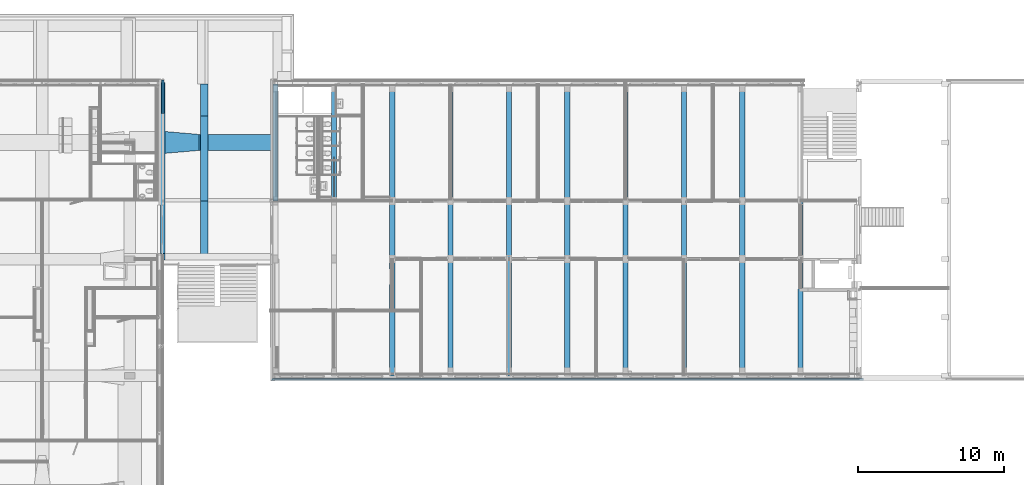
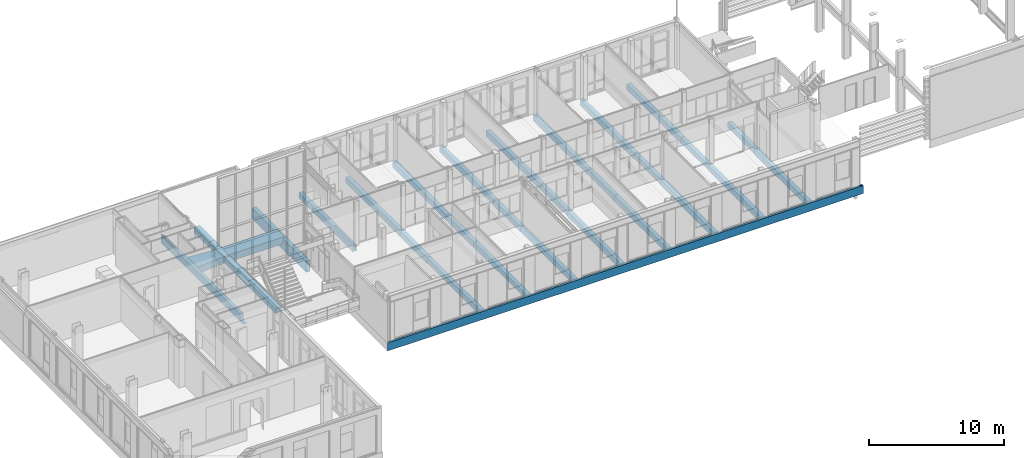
# One storey, part 19 of 94: 32 beams.
"""IFC2X3 building model written with IfcOpenShell, lengths in millimetres."""

import ifcopenshell
import ifcopenshell.guid

model = None  # the IFC model being written
_history = None  # IfcOwnerHistory: only IFC2X3 demands one
_inside = {}  # id of a spatial element -> (the spatial element, [elements in it])
_under = {}  # id of a project, library or spatial element -> (it, [spatial elements below it])
_declared = {}  # id of a project -> (the project, [libraries it declares])
_typed = {}  # id of a type object -> (the type object, [elements of that type])
_made_of = {}  # id of a material, layer set ... -> (it, [elements and type objects made of it])


def new_model(schema):
    """Start an empty IFC model of exactly this schema.

    Asked for "IFC4X3", IfcOpenShell would pick the latest addendum, in which some entities
    have other attributes; the version numbers below select the first issue.
    IFC2X3 requires an IfcOwnerHistory on every rooted entity: one is made here for all.
    """
    global model, _history
    if schema == "IFC4X3":
        model = ifcopenshell.file(schema_version=(4, 3, 0, 0))
    else:
        model = ifcopenshell.file(schema=schema)
    _inside.clear()
    _under.clear()
    _declared.clear()
    _typed.clear()
    _made_of.clear()
    _history = None
    if model.schema == "IFC2X3":
        org = make("IfcOrganization", Name="unknown")
        user = make(
            "IfcPersonAndOrganization",
            ThePerson=make("IfcPerson", FamilyName="unknown"),
            TheOrganization=org,
        )
        app = make(
            "IfcApplication",
            ApplicationDeveloper=org,
            Version="unknown",
            ApplicationFullName="unknown",
            ApplicationIdentifier="unknown",
        )
        _history = make(
            "IfcOwnerHistory",
            OwningUser=user,
            OwningApplication=app,
            ChangeAction="ADDED",
            CreationDate=0,
        )
    return model


def make(cls, **values):
    """One entity of the class cls with the attributes given. An attribute that is None is left unset."""
    return model.create_entity(
        cls, **{name: value for name, value in values.items() if value is not None}
    )


def entity(cls, *values):
    """Any entity or typed value of the class cls, its attributes in the order of the schema. None: left unset."""
    e = model.create_entity(cls)
    for i, value in enumerate(values):
        if value is not None:
            e[i] = value
    return e


def rooted(cls, **values):
    """An entity with a GlobalId (a new one), such as an element, a storey or a relation."""
    return make(cls, GlobalId=ifcopenshell.guid.new(), OwnerHistory=_history, **values)


def si_unit(unit_type, name, prefix=None):
    """IfcSIUnit, for example si_unit("LENGTHUNIT", "METRE", prefix="MILLI")."""
    return make("IfcSIUnit", UnitType=unit_type, Prefix=prefix, Name=name)


def converted_unit(unit_type, name, factor, base, dimensions=None, offset=None):
    """IfcConversionBasedUnit, such as the inch: factor (a typed value) times the base unit."""
    return make(
        "IfcConversionBasedUnit"
        if offset is None
        else "IfcConversionBasedUnitWithOffset",
        ConversionOffset=offset,
        Dimensions=None
        if dimensions is None
        else entity("IfcDimensionalExponents", *dimensions),
        UnitType=unit_type,
        Name=name,
        ConversionFactor=make(
            "IfcMeasureWithUnit", ValueComponent=factor, UnitComponent=base
        ),
    )


def derived_unit(unit_type, elements):
    """IfcDerivedUnit: a product of units, each with its exponent."""
    return make(
        "IfcDerivedUnit",
        Elements=[
            make("IfcDerivedUnitElement", Unit=unit, Exponent=power)
            for unit, power in elements
        ],
        UnitType=unit_type,
    )


def money_unit(currency):
    """IfcMonetaryUnit."""
    return make("IfcMonetaryUnit", Currency=currency)


def assignment(units):
    """IfcUnitAssignment: the units of a project."""
    return None if units is None else make("IfcUnitAssignment", Units=units)


def point(xyz):
    """IfcCartesianPoint."""
    return None if xyz is None else make("IfcCartesianPoint", Coordinates=xyz)


def direction(xyz):
    """IfcDirection."""
    return None if xyz is None else make("IfcDirection", DirectionRatios=xyz)


def frame(location, z_axis=None, x_axis=None):
    """IfcAxis2Placement3D, a coordinate frame: its origin and axes. An axis left out is left unset."""
    return make(
        "IfcAxis2Placement3D",
        Location=point(location),
        Axis=direction(z_axis),
        RefDirection=direction(x_axis),
    )


def origin_with_axes():
    """The frame at (0, 0, 0) with the z axis (0, 0, 1) and the x axis (1, 0, 0) written out."""
    return frame((0.0, 0.0, 0.0), z_axis=(0.0, 0.0, 1.0), x_axis=(1.0, 0.0, 0.0))


def place(relative_to, where):
    """IfcLocalPlacement: puts the frame where relative to a parent placement (None: the world)."""
    return make(
        "IfcLocalPlacement", PlacementRelTo=relative_to, RelativePlacement=where
    )


def context(
    kind, dimensions, precision=None, world=None, true_north=None, identifier=None
):
    """IfcGeometricRepresentationContext, for example the 3D "Model" context."""
    return make(
        "IfcGeometricRepresentationContext",
        ContextIdentifier=identifier,
        ContextType=kind,
        CoordinateSpaceDimension=dimensions,
        Precision=precision,
        WorldCoordinateSystem=world,
        TrueNorth=true_north,
    )


def subcontext(parent, identifier, kind, view, scale=None):
    """IfcGeometricRepresentationSubContext, for example "Body" below "Model"."""
    return make(
        "IfcGeometricRepresentationSubContext",
        ContextIdentifier=identifier,
        ContextType=kind,
        ParentContext=parent,
        TargetScale=scale,
        TargetView=view,
    )


def project(units=None, contexts=None):
    """IfcProject with its units and contexts."""
    return rooted(
        "IfcProject",
        Name="project",
        RepresentationContexts=contexts,
        UnitsInContext=assignment(units),
    )


def spatial(cls, under=None, at=None, **own):
    """A site, building, storey or space (cls), placed at a placement, below another one or the project."""
    s = rooted(cls, ObjectPlacement=at, **own)
    if under is not None:
        _under.setdefault(under.id(), (under, []))[1].append(s)
    return s


def faces_of(points, faces, orient=None, outer=None):
    """IfcFace entities. A face is a list of loops; a loop is a list of indices into points, from 0.

    orient and outer hold one flag for each loop. By default every Orientation is true, the
    first loop of a face is its IfcFaceOuterBound and the others are IfcFaceBound.
    """
    made = []
    for i, loops in enumerate(faces):
        bounds = []
        for j, loop in enumerate(loops):
            is_outer = j == 0 if outer is None else outer[i][j]
            bounds.append(
                make(
                    "IfcFaceOuterBound" if is_outer else "IfcFaceBound",
                    Bound=make("IfcPolyLoop", Polygon=[points[k] for k in loop]),
                    Orientation=True if orient is None else orient[i][j],
                )
            )
        made.append(make("IfcFace", Bounds=bounds))
    return made


def faceted_brep(points, faces, orient=None, outer=None, voids=None):
    """IfcFacetedBrep: a solid bounded by flat faces; with voids (closed shells), ...WithVoids."""
    shared = [point(p) for p in points]
    hull = make("IfcClosedShell", CfsFaces=faces_of(shared, faces, orient, outer))
    if voids is None:
        return make("IfcFacetedBrep", Outer=hull)
    return make(
        "IfcFacetedBrepWithVoids",
        Outer=hull,
        Voids=[
            make(cls, CfsFaces=faces_of(shared, fs, o, b)) for cls, fs, o, b in voids
        ],
    )


def shape(context_of_items, identifier, shape_type, items):
    """IfcShapeRepresentation: the items that make up one representation, for example the "Body"."""
    return make(
        "IfcShapeRepresentation",
        ContextOfItems=context_of_items,
        RepresentationIdentifier=identifier,
        RepresentationType=shape_type,
        Items=items,
    )


def material(Name=None, Category=None):
    """IfcMaterial."""
    return make("IfcMaterial", Name=Name, Category=Category)


def made_of(thing, what):
    """Note that an element or type object is made of a material, layer set ...; save() writes the relation."""
    if what is not None:
        _made_of.setdefault(what.id(), (what, []))[1].append(thing)
    return thing


def type_object(cls, material=None, **own):
    """A type object (cls), such as IfcWallType, which elements share."""
    return made_of(rooted(cls, **own), material)


def element(
    cls,
    number,
    at=None,
    inside=None,
    cuts=None,
    type_object=None,
    material=None,
    context=None,
    identifier="Body",
    shape_type=None,
    held_by="IfcProductDefinitionShape",
    body=None,
    shapes=None,
    **own,
):
    """One element of the class cls, such as IfcWall. Its Tag is "e" and its number.

    at: its placement. inside: the storey or other place that contains it. cuts: it is an
    opening in that element (IfcRelVoidsElement). A single representation is given by context,
    identifier, shape_type and body (its items); several are given by shapes. held_by: the class
    of the entity that holds the representations. save() writes the other relations.
    """
    e = rooted(cls, Tag="e%d" % number, ObjectPlacement=at, **own)
    if body is not None:
        shapes = [shape(context, identifier, shape_type, body)]
    if shapes is not None:
        e.Representation = make(held_by, Representations=shapes)
    if inside is not None:
        _inside.setdefault(inside.id(), (inside, []))[1].append(e)
    if cuts is not None:
        rooted(
            "IfcRelVoidsElement", RelatingBuildingElement=cuts, RelatedOpeningElement=e
        )
    if type_object is not None:
        _typed.setdefault(type_object.id(), (type_object, []))[1].append(e)
    return made_of(e, material)


def aggregate(whole, parts):
    """IfcRelAggregates: a whole, such as a stair, and the parts it consists of."""
    return rooted("IfcRelAggregates", RelatingObject=whole, RelatedObjects=parts)


def save(model, path):
    """Write the relations noted so far, then the file.

    IfcRelAggregates (storeys below a building ...), IfcRelContainedInSpatialStructure (elements
    in a storey), IfcRelDefinesByType, IfcRelAssociatesMaterial and IfcRelDeclares: one each for
    every whole, place, type object, material and project.
    """
    for whole, parts in _under.values():
        aggregate(whole, parts)
    for where, things in _inside.values():
        rooted(
            "IfcRelContainedInSpatialStructure",
            RelatedElements=things,
            RelatingStructure=where,
        )
    for kind, things in _typed.values():
        rooted("IfcRelDefinesByType", RelatedObjects=things, RelatingType=kind)
    for what, things in _made_of.values():
        rooted("IfcRelAssociatesMaterial", RelatedObjects=things, RelatingMaterial=what)
    for by, libraries in _declared.values():
        rooted("IfcRelDeclares", RelatingContext=by, RelatedDefinitions=libraries)
    model.write(path)


model = new_model("IFC2X3")

# Units and contexts
model_context = context("Model", 3, precision=0.01, world=origin_with_axes(), true_north=direction((0.0, 1.0)))
body_context = subcontext(model_context, "Body", "Model", "MODEL_VIEW")
ifc_project = project(units=[si_unit("LENGTHUNIT", "METRE", prefix="MILLI"), si_unit("AREAUNIT", "SQUARE_METRE"), si_unit("VOLUMEUNIT", "CUBIC_METRE"), converted_unit("PLANEANGLEUNIT", "DEGREE", entity("IfcPlaneAngleMeasure", 0.0174532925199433), si_unit("PLANEANGLEUNIT", "RADIAN"), dimensions=[0, 0, 0, 0, 0, 0, 0]), money_unit("EUR"), converted_unit("TIMEUNIT", "Year", entity("IfcTimeMeasure", 31557600.0), si_unit("TIMEUNIT", "SECOND"), dimensions=[0, 0, 1, 0, 0, 0, 0]), si_unit("MASSUNIT", "GRAM", prefix="KILO"), si_unit("THERMODYNAMICTEMPERATUREUNIT", "DEGREE_CELSIUS"), si_unit("LUMINOUSINTENSITYUNIT", "LUMEN"), si_unit("ENERGYUNIT", "JOULE", prefix="MEGA"), derived_unit("THERMALCONDUCTANCEUNIT", [(si_unit("POWERUNIT", "WATT"), 1), (si_unit("LENGTHUNIT", "METRE"), -1), (si_unit("THERMODYNAMICTEMPERATUREUNIT", "KELVIN"), -1)]), derived_unit("SPECIFICHEATCAPACITYUNIT", [(si_unit("ENERGYUNIT", "JOULE"), 1), (si_unit("MASSUNIT", "GRAM", prefix="KILO"), -1), (si_unit("THERMODYNAMICTEMPERATUREUNIT", "KELVIN"), -1)]), derived_unit("MASSDENSITYUNIT", [(si_unit("MASSUNIT", "GRAM", prefix="KILO"), 1), (si_unit("VOLUMEUNIT", "CUBIC_METRE"), -1)])], contexts=[model_context])

# Site, building, storey
site_placement = place(None, origin_with_axes())
site = spatial("IfcSite", under=ifc_project, at=site_placement, Name="<site naam>", CompositionType="ELEMENT")
building_placement = place(site_placement, origin_with_axes())
building = spatial("IfcBuilding", under=site, at=building_placement, Name="<Naam gebouw>", CompositionType="ELEMENT")
storey_placement = place(building_placement, frame((0.0, 0.0, 4250.0), z_axis=(0.0, 0.0, 1.0), x_axis=(1.0, 0.0, 0.0)))
storey = spatial("IfcBuildingStorey", under=building, at=storey_placement, Name="01 1e verdieping", CompositionType="ELEMENT", Elevation=4250.0)

# Beams
ifc_material_1 = material(Name="beton_gewapend C")
beam_type_1 = type_object("IfcBeamType", Name="beton_gewapend C 350 x 650", PredefinedType="BEAM")
beam_1_placement = place(storey_placement, frame((20000.00000000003, 19999.99999999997, -29.99999999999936), z_axis=(0.0, 0.0, 1.0), x_axis=(-1.0, 0.0, 0.0)))
element("IfcBeam", 1, at=beam_1_placement, inside=storey, type_object=beam_type_1, material=ifc_material_1, Name="28_Balk_beton_gewapend", ObjectType="BEAM", context=body_context, shape_type="Brep", body=[
    faceted_brep([(175.0000000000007, 0.0, -650.0000000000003), (175.0000000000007, 0.0, -120.000000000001), (-175.0000000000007, 0.0, -120.000000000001), (-175.0000000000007, 0.0, -650.0000000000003), (175.0000000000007, 7999.999999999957, -650.0000000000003), (175.0000000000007, 7999.999999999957, -120.000000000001), (-175.0000000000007, 7999.999999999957, -120.000000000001), (-175.0000000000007, 7999.999999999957, -650.0000000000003)], [[[0, 1, 2, 3]], [[4, 5, 1, 0]], [[5, 6, 2, 1]], [[3, 2, 6, 7]], [[0, 3, 7, 4]], [[7, 6, 5, 4]]]),
])
beam_2_placement = place(storey_placement, frame((40000.00000000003, 8000.000000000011, -29.99999999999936), z_axis=(0.0, 0.0, 1.0), x_axis=(-1.0, 0.0, 0.0)))
element("IfcBeam", 2, at=beam_2_placement, inside=storey, type_object=beam_type_1, material=ifc_material_1, Name="28_Balk_beton_gewapend", ObjectType="BEAM", context=body_context, shape_type="Brep", body=[
    faceted_brep([(174.9999999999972, 0.0, -650.0000000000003), (174.9999999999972, 0.0, -120.000000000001), (-174.9999999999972, 0.0, -120.000000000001), (-174.9999999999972, 0.0, -650.0000000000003), (174.9999999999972, 8000.000000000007, -650.0000000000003), (174.9999999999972, 8000.000000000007, -120.000000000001), (-175.0000000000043, 8000.000000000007, -120.000000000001), (-175.0000000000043, 8000.000000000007, -650.0000000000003)], [[[0, 1, 2, 3]], [[4, 5, 1, 0]], [[5, 6, 2, 1]], [[3, 2, 6, 7]], [[0, 3, 7, 4]], [[7, 6, 5, 4]]]),
])
for number, where, z_axis, x_axis, name in (
    (3, (44000.00000000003, 19999.99999999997, -29.99999999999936), (0.0, 0.0, 1.0), (-1.0, 0.0, 0.0), "28_Balk_beton_gewapend"),
    (4, (40000.00000000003, 19999.99999999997, -29.99999999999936), (0.0, 0.0, 1.0), (-1.0, 0.0, 0.0), "28_Balk_beton_gewapend"),
):
    element("IfcBeam", number, at=place(storey_placement, frame(where, z_axis=z_axis, x_axis=x_axis)), inside=storey, type_object=beam_type_1, material=ifc_material_1, Name=name, ObjectType="BEAM", context=body_context, shape_type="Brep", body=[
        faceted_brep([(174.9999999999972, 0.0, -650.0000000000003), (174.9999999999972, 0.0, -120.000000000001), (-174.9999999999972, 0.0, -120.000000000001), (-174.9999999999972, 0.0, -650.0000000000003), (174.9999999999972, 7999.999999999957, -650.0000000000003), (174.9999999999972, 7999.999999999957, -120.000000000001), (-175.0000000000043, 7999.999999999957, -120.000000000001), (-175.0000000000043, 7999.999999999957, -650.0000000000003)], [[[0, 1, 2, 3]], [[4, 5, 1, 0]], [[5, 6, 2, 1]], [[3, 2, 6, 7]], [[0, 3, 7, 4]], [[7, 6, 5, 4]]]),
    ])
for number, where, z_axis, x_axis, name in (
    (5, (44000.00000000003, 8000.000000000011, -29.99999999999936), (0.0, 0.0, 1.0), (-1.0, 0.0, 0.0), "28_Balk_beton_gewapend"),
    (6, (48000.00000000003, 8000.000000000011, -29.99999999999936), (0.0, 0.0, 1.0), (-1.0, 0.0, 0.0), "28_Balk_beton_gewapend"),
):
    element("IfcBeam", number, at=place(storey_placement, frame(where, z_axis=z_axis, x_axis=x_axis)), inside=storey, type_object=beam_type_1, material=ifc_material_1, Name=name, ObjectType="BEAM", context=body_context, shape_type="Brep", body=[
        faceted_brep([(174.9999999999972, 0.0, -650.0000000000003), (174.9999999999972, 0.0, -120.000000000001), (-174.9999999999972, 0.0, -120.000000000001), (-174.9999999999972, 0.0, -650.0000000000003), (174.9999999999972, 8000.000000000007, -650.0000000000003), (174.9999999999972, 8000.000000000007, -120.000000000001), (-175.0000000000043, 8000.000000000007, -120.000000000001), (-175.0000000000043, 8000.000000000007, -650.0000000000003)], [[[0, 1, 2, 3]], [[4, 5, 1, 0]], [[5, 6, 2, 1]], [[3, 2, 6, 7]], [[0, 3, 7, 4]], [[7, 6, 5, 4]]]),
    ])
beam_3_placement = place(storey_placement, frame((32000.00000000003, 8000.000000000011, -29.99999999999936), z_axis=(0.0, 0.0, 1.0), x_axis=(-1.0, 0.0, 0.0)))
element("IfcBeam", 7, at=beam_3_placement, inside=storey, type_object=beam_type_1, material=ifc_material_1, Name="28_Balk_beton_gewapend", ObjectType="BEAM", context=body_context, shape_type="Brep", body=[
    faceted_brep([(175.0000000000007, 0.0, -650.0000000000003), (175.0000000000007, 0.0, -120.000000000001), (-174.9999999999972, 0.0, -120.000000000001), (-174.9999999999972, 0.0, -650.0000000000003), (175.0000000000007, 8000.000000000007, -650.0000000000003), (175.0000000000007, 8000.000000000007, -120.000000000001), (-175.0000000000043, 8000.000000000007, -120.000000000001), (-175.0000000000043, 8000.000000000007, -650.0000000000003)], [[[0, 1, 2, 3]], [[4, 5, 1, 0]], [[5, 6, 2, 1]], [[3, 2, 6, 7]], [[0, 3, 7, 4]], [[7, 6, 5, 4]]]),
])
beam_4_placement = place(storey_placement, frame((32000.00000000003, 19999.99999999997, -29.99999999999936), z_axis=(0.0, 0.0, 1.0), x_axis=(-1.0, 0.0, 0.0)))
element("IfcBeam", 8, at=beam_4_placement, inside=storey, type_object=beam_type_1, material=ifc_material_1, Name="28_Balk_beton_gewapend", ObjectType="BEAM", context=body_context, shape_type="Brep", body=[
    faceted_brep([(175.0000000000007, 0.0, -650.0000000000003), (175.0000000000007, 0.0, -120.000000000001), (-174.9999999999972, 0.0, -120.000000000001), (-174.9999999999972, 0.0, -650.0000000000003), (175.0000000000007, 7999.999999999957, -650.0000000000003), (175.0000000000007, 7999.999999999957, -120.000000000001), (-175.0000000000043, 7999.999999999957, -120.000000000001), (-175.0000000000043, 7999.999999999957, -650.0000000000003)], [[[0, 1, 2, 3]], [[4, 5, 1, 0]], [[5, 6, 2, 1]], [[3, 2, 6, 7]], [[0, 3, 7, 4]], [[7, 6, 5, 4]]]),
])
beam_5_placement = place(storey_placement, frame((28000.00000000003, 12000.00000000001, -29.99999999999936), z_axis=(0.0, 0.0, 1.0), x_axis=(-1.0, 0.0, 0.0)))
element("IfcBeam", 9, at=beam_5_placement, inside=storey, type_object=beam_type_1, material=ifc_material_1, Name="28_Balk_beton_gewapend", ObjectType="BEAM", context=body_context, shape_type="Brep", body=[
    faceted_brep([(175.0000000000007, 0.0, -650.0000000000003), (175.0000000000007, 0.0, -120.000000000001), (-175.0000000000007, 0.0, -120.000000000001), (-175.0000000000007, 0.0, -650.0000000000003), (175.0000000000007, 4000.0, -650.0000000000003), (175.0000000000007, 4000.0, -120.000000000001), (-175.0000000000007, 4000.0, -120.000000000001), (-175.0000000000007, 4000.0, -650.0000000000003)], [[[0, 1, 2, 3]], [[4, 5, 1, 0]], [[5, 6, 2, 1]], [[3, 2, 6, 7]], [[0, 3, 7, 4]], [[7, 6, 5, 4]]]),
])
beam_6_placement = place(storey_placement, frame((36000.00000000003, 19999.99999999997, -29.99999999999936), z_axis=(0.0, 0.0, 1.0), x_axis=(-1.0, 0.0, 0.0)))
element("IfcBeam", 10, at=beam_6_placement, inside=storey, type_object=beam_type_1, material=ifc_material_1, Name="28_Balk_beton_gewapend", ObjectType="BEAM", context=body_context, shape_type="Brep", body=[
    faceted_brep([(174.9999999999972, 0.0, -650.0000000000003), (174.9999999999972, 0.0, -120.000000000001), (-174.9999999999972, 0.0, -120.000000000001), (-174.9999999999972, 0.0, -650.0000000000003), (174.9999999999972, 7999.999999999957, -650.0000000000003), (174.9999999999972, 7999.999999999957, -120.000000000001), (-175.0000000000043, 7999.999999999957, -120.000000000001), (-175.0000000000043, 7999.999999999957, -650.0000000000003)], [[[0, 1, 2, 3]], [[4, 5, 1, 0]], [[5, 6, 2, 1]], [[3, 2, 6, 7]], [[0, 3, 7, 4]], [[7, 6, 5, 4]]]),
])
beam_7_placement = place(storey_placement, frame((36000.00000000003, 8225.000000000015, -29.99999999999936), z_axis=(0.0, 0.0, 1.0), x_axis=(-1.0, 0.0, 0.0)))
element("IfcBeam", 11, at=beam_7_placement, inside=storey, type_object=beam_type_1, material=ifc_material_1, Name="28_Balk_beton_gewapend", ObjectType="BEAM", context=body_context, shape_type="Brep", body=[
    faceted_brep([(174.9999999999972, 225.0000000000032, -600.0000000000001), (174.9999999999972, 225.0000000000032, -120.000000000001), (-174.9999999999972, 225.0000000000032, -120.000000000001), (-174.9999999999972, 225.0000000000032, -600.0000000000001), (174.9999999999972, 8225.000000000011, -650.0000000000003), (174.9999999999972, 8225.000000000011, -120.000000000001), (174.9999999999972, 0.0, -600.0000000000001), (174.9999999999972, 0.0, -650.0000000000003), (-174.9999999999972, 8225.000000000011, -120.000000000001), (-174.9999999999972, 8225.000000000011, -650.0000000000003), (-174.9999999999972, 0.0, -650.0000000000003), (-174.9999999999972, 0.0, -600.0000000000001)], [[[0, 1, 2, 3]], [[4, 5, 1, 0, 6, 7]], [[5, 8, 2, 1]], [[3, 2, 8, 9, 10, 11]], [[6, 0, 3, 11]], [[9, 8, 5, 4]], [[10, 7, 6, 11]], [[4, 7, 10, 9]]]),
])
beam_8_placement = place(storey_placement, frame((20000.00000000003, 12000.00000000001, -29.99999999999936), z_axis=(0.0, 0.0, 1.0), x_axis=(-1.0, 0.0, 0.0)))
element("IfcBeam", 12, at=beam_8_placement, inside=storey, type_object=beam_type_1, material=ifc_material_1, Name="28_Balk_beton_gewapend", ObjectType="BEAM", context=body_context, shape_type="Brep", body=[
    faceted_brep([(175.0000000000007, 0.0, -650.0000000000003), (175.0000000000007, 0.0, -120.000000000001), (-175.0000000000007, 0.0, -120.000000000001), (-175.0000000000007, 0.0, -650.0000000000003), (175.0000000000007, 4000.0, -650.0000000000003), (175.0000000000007, 4000.0, -120.000000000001), (-175.0000000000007, 4000.0, -120.000000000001), (-175.0000000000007, 4000.0, -650.0000000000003)], [[[0, 1, 2, 3]], [[4, 5, 1, 0]], [[5, 6, 2, 1]], [[3, 2, 6, 7]], [[0, 3, 7, 4]], [[7, 6, 5, 4]]]),
])
beam_9_placement = place(storey_placement, frame((16000.00000000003, 19999.99999999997, -29.99999999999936), z_axis=(0.0, 0.0, 1.0), x_axis=(-1.0, 0.0, 0.0)))
element("IfcBeam", 13, at=beam_9_placement, inside=storey, type_object=beam_type_1, material=ifc_material_1, Name="28_Balk_beton_gewapend", ObjectType="BEAM", context=body_context, shape_type="Brep", body=[
    faceted_brep([(175.0000000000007, 0.0, -650.0000000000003), (175.0000000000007, 0.0, -120.000000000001), (-175.0000000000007, 0.0, -120.000000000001), (-175.0000000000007, 0.0, -650.0000000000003), (175.0000000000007, 7999.999999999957, -650.0000000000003), (175.0000000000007, 7999.999999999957, -120.000000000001), (-25.00000000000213, 7999.999999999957, -120.000000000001), (-175.0000000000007, 7999.999999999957, -120.000000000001), (24.9999999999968, 7999.999999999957, -120.000000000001), (24.9999999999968, 5014.464492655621, -120.000000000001), (-25.00000000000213, 5014.464492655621, -120.000000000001), (-175.0000000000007, 7999.999999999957, -650.0000000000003), (-25.00000000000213, 7999.999999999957, -650.0000000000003), (-25.00000000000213, 5014.464492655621, -650.0000000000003), (24.9999999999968, 5014.464492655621, -650.0000000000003), (24.9999999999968, 7999.999999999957, -650.0000000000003)], [[[0, 1, 2, 3]], [[4, 5, 1, 0]], [[6, 7, 2, 1, 5, 8, 9, 10]], [[3, 2, 7, 11]], [[12, 13, 14, 15, 4, 0, 3, 11]], [[15, 8, 5, 4]], [[11, 7, 6, 12]], [[14, 9, 8, 15]], [[13, 10, 9, 14]], [[12, 6, 10, 13]]]),
])
beam_10_placement = place(storey_placement, frame((24000.00000000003, 12000.00000000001, -29.99999999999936), z_axis=(0.0, 0.0, 1.0), x_axis=(-1.0, 0.0, 0.0)))
element("IfcBeam", 14, at=beam_10_placement, inside=storey, type_object=beam_type_1, material=ifc_material_1, Name="28_Balk_beton_gewapend", ObjectType="BEAM", context=body_context, shape_type="Brep", body=[
    faceted_brep([(175.0000000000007, 0.0, -650.0000000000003), (175.0000000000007, 0.0, -120.000000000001), (-175.0000000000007, 0.0, -120.000000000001), (-175.0000000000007, 0.0, -650.0000000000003), (175.0000000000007, 4000.0, -650.0000000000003), (175.0000000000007, 4000.0, -120.000000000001), (-175.0000000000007, 4000.0, -120.000000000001), (-175.0000000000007, 4000.0, -650.0000000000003)], [[[0, 1, 2, 3]], [[4, 5, 1, 0]], [[5, 6, 2, 1]], [[3, 2, 6, 7]], [[0, 3, 7, 4]], [[7, 6, 5, 4]]]),
])
ifc_material_2 = material(Name="beton_gewapend_prefab")
beam_type_2 = type_object("IfcBeamType", Name="Betonbanden 160 x 760", PredefinedType="BEAM")
beam_11_placement = place(storey_placement, frame((11725.00000000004, -265.0168939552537, 59.99993649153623), z_axis=(0.0, 0.0, 1.0), x_axis=(0.0, -1.0, 0.0)))
element("IfcBeam", 15, at=beam_11_placement, inside=storey, type_object=beam_type_2, material=ifc_material_2, Name="41_Balk_Betonbanden", ObjectType="BEAM", context=body_context, shape_type="Brep", body=[
    faceted_brep([(-100.0000071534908, 40179.49999999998, -100.0000001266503), (-100.0000071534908, 40179.49999999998, -89.99993649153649), (-100.0000071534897, 100.0000071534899, -89.99993649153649), (-100.0000071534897, 100.0000071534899, 0.0), (-100.0000071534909, 40585.52948466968, 0.0), (-100.0000071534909, 40585.52948466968, -100.0000001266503), (0.0, 40179.49999999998, -89.99993649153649), (0.0, 40179.49999999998, -100.0000001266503), (-10.49999999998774, 10.49999999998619, -89.99993649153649), (0.0, 10.49999999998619, -89.99993649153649), (-10.49999999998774, 10.49999999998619, -100.0000001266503), (4.298053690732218e-06, -4.298055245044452e-06, -100.0000001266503), (4.298053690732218e-06, -4.298055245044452e-06, -690.0000385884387), (-29.99999800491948, 29.99999800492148, -690.0000385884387), (-29.99999800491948, 29.99999800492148, -660.0000280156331), (-60.00000030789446, 60.00000030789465, -660.0000280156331), (-60.00000030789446, 60.00000030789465, -759.9999375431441), (4.298053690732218e-06, -4.298055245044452e-06, -759.9999375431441), (4.298053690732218e-06, -4.298055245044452e-06, -730.0000145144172), (29.99999527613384, -29.99999527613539, -730.0000145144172), (29.99999527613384, -29.99999527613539, -759.9999375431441), (59.99999757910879, -59.99999757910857, -759.9999375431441), (59.99999757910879, -59.99999757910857, -30.00000230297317), (-60.00000030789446, 60.00000030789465, -30.00000230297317), (-60.00000030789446, 60.00000030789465, 0.0), (-60.00000030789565, 40585.52948466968, 0.0), (-60.00000030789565, 40585.52948466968, -30.00000230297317), (59.99999757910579, 40585.52948466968, -30.00000230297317), (59.99999757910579, 40585.52948466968, -759.9999375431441), (29.99999527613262, 40585.52948466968, -759.9999375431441), (29.99999527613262, 40585.52948466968, -730.0000145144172), (4.298050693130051e-06, 40585.52948466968, -730.0000145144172), (4.298050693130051e-06, 40585.52948466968, -759.9999375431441), (-60.00000030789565, 40585.52948466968, -759.9999375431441), (-60.00000030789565, 40585.52948466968, -660.0000280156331), (-29.99999800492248, 40585.52948466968, -660.0000280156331), (-29.99999800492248, 40585.52948466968, -690.0000385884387), (4.298050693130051e-06, 40585.52948466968, -690.0000385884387), (4.298050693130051e-06, 40585.52948466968, -100.0000001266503), (0.0, 10.49999999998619, -100.0000001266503)], [[[0, 1, 2, 3, 4, 5]], [[6, 1, 0, 7]], [[8, 2, 1, 6, 9]], [[2, 8, 10, 11, 12, 13, 14, 15, 16, 17, 18, 19, 20, 21, 22, 23, 24, 3]], [[3, 24, 25, 4]], [[4, 25, 26, 27, 28, 29, 30, 31, 32, 33, 34, 35, 36, 37, 38, 5]], [[38, 7, 0, 5]], [[6, 7, 39, 9]], [[39, 10, 8, 9]], [[11, 10, 39]], [[11, 39, 7, 38, 37, 12]], [[13, 12, 37, 36]], [[14, 13, 36, 35]], [[15, 14, 35, 34]], [[16, 15, 34, 33]], [[17, 16, 33, 32]], [[18, 17, 32, 31]], [[19, 18, 31, 30]], [[20, 19, 30, 29]], [[21, 20, 29, 28]], [[22, 21, 28, 27]], [[23, 22, 27, 26]], [[24, 23, 26, 25]]]),
])
beam_12_placement = place(storey_placement, frame((4275.044468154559, 18000.00000000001, 19.99999999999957), z_axis=(0.0, 0.0, 1.0), x_axis=(1.0, 0.0, 0.0)))
element("IfcBeam", 16, at=beam_12_placement, inside=storey, type_object=beam_type_2, material=ifc_material_2, Name="41_Balk_Betonbanden", ObjectType="BEAM", context=body_context, shape_type="Brep", body=[
    faceted_brep([(4.298053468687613e-06, 2275.000000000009, -690.0000385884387), (4.298053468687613e-06, 2275.000000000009, -169.9999999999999), (59.99999757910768, 2275.000000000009, -169.9999999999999), (59.99999757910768, 2275.000000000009, -759.9999375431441), (29.99999527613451, 2275.000000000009, -759.9999375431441), (29.99999527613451, 2275.000000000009, -730.0000145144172), (4.298053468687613e-06, 2275.000000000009, -730.0000145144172), (4.298053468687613e-06, 2275.000000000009, -759.9999375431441), (-60.00000030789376, 2275.000000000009, -759.9999375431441), (-60.00000030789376, 2275.000000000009, -660.0000280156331), (-29.99999800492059, 2275.000000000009, -660.0000280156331), (-29.99999800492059, 2275.000000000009, -690.0000385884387), (4.298053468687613e-06, 0.0, -690.0000385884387), (4.298053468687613e-06, 0.0, -169.9999999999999), (59.99999757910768, 0.0, -169.9999999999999), (59.99999757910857, 0.0, -759.9999375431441), (29.99999527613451, 0.0, -759.9999375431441), (29.99999527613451, 0.0, -730.0000145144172), (4.298053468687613e-06, 0.0, -730.0000145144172), (4.298053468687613e-06, 0.0, -759.9999375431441), (-60.00000030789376, 0.0, -759.9999375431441), (-60.00000030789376, 0.0, -660.0000280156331), (-29.9999980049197, 0.0, -660.0000280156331), (-29.9999980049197, 0.0, -690.0000385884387)], [[[0, 1, 2, 3, 4, 5, 6, 7, 8, 9, 10, 11]], [[12, 13, 1, 0]], [[13, 14, 2, 1]], [[3, 2, 14, 15]], [[15, 16, 4, 3]], [[16, 17, 5, 4]], [[17, 18, 6, 5]], [[18, 19, 7, 6]], [[19, 20, 8, 7]], [[20, 21, 9, 8]], [[21, 22, 10, 9]], [[22, 23, 11, 10]], [[23, 12, 0, 11]], [[15, 14, 13, 12, 23, 22, 21, 20, 19, 18, 17, 16]]]),
    faceted_brep([(59.99999757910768, 0.0, -30.00000230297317), (59.99999757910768, 0.0, -49.99999999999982), (59.99999757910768, 2275.000000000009, -49.99999999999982), (59.99999757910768, 2275.000000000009, -30.00000230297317), (-100.000007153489, 0.0, 0.0), (-100.000007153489, 0.0, -49.99999999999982), (-60.00000030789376, 0.0, -30.00000230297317), (-60.00000030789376, 0.0, 0.0), (-100.000007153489, 2275.000000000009, -49.99999999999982), (-100.000007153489, 2275.000000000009, 0.0), (-60.00000030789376, 2275.000000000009, 0.0), (-60.00000030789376, 2275.000000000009, -30.00000230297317)], [[[0, 1, 2, 3]], [[4, 5, 1, 0, 6, 7]], [[5, 8, 2, 1]], [[3, 2, 8, 9, 10, 11]], [[6, 0, 3, 11]], [[9, 8, 5, 4]], [[7, 6, 11, 10]], [[4, 7, 10, 9]]]),
])
beam_type_3 = type_object("IfcBeamType", Name="beton_gewapend C 350 x 635", PredefinedType="BEAM")
for number, where, z_axis, x_axis, name in (
    (17, (24000.00000000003, 19999.99999999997, -29.99999999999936), (0.0, 0.0, 1.0), (-1.0, 0.0, 0.0), "28_Balk_beton_gewapend"),
    (18, (28000.00000000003, 19999.99999999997, -29.99999999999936), (0.0, 0.0, 1.0), (-1.0, 0.0, 0.0), "28_Balk_beton_gewapend"),
):
    element("IfcBeam", number, at=place(storey_placement, frame(where, z_axis=z_axis, x_axis=x_axis)), inside=storey, type_object=beam_type_3, material=ifc_material_1, Name=name, ObjectType="BEAM", context=body_context, shape_type="Brep", body=[
        faceted_brep([(175.0000000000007, 0.0, -634.9999999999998), (175.0000000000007, 0.0, -120.000000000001), (-175.0000000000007, 0.0, -120.000000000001), (-175.0000000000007, 0.0, -634.9999999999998), (175.0000000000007, 7999.999999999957, -634.9999999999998), (175.0000000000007, 7999.999999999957, -120.000000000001), (-175.0000000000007, 7999.999999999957, -120.000000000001), (-175.0000000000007, 7999.999999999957, -634.9999999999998)], [[[0, 1, 2, 3]], [[4, 5, 1, 0]], [[5, 6, 2, 1]], [[3, 2, 6, 7]], [[0, 3, 7, 4]], [[7, 6, 5, 4]]]),
    ])
beam_type_4 = type_object("IfcBeamType", Name="beton_gewapend C 350 x 600", PredefinedType="BEAM")
for number, where, z_axis, x_axis, name in (
    (19, (40000.00000000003, 12000.00000000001, -29.99999999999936), (0.0, 0.0, 1.0), (-1.0, 0.0, 0.0), "28_Balk_beton_gewapend"),
    (20, (44000.00000000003, 12000.00000000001, -29.99999999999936), (0.0, 0.0, 1.0), (-1.0, 0.0, 0.0), "28_Balk_beton_gewapend"),
    (21, (48000.00000000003, 12000.00000000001, -29.99999999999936), (0.0, 0.0, 1.0), (-1.0, 0.0, 0.0), "28_Balk_beton_gewapend"),
):
    element("IfcBeam", number, at=place(storey_placement, frame(where, z_axis=z_axis, x_axis=x_axis)), inside=storey, type_object=beam_type_4, material=ifc_material_1, Name=name, ObjectType="BEAM", context=body_context, shape_type="Brep", body=[
        faceted_brep([(174.9999999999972, 0.0, -600.0000000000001), (174.9999999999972, 0.0, -120.000000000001), (-174.9999999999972, 0.0, -120.000000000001), (-174.9999999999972, 0.0, -600.0000000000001), (174.9999999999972, 4000.0, -600.0000000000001), (174.9999999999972, 4000.0, -120.000000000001), (-174.9999999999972, 4000.0, -120.000000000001), (-174.9999999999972, 4000.0, -600.0000000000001)], [[[0, 1, 2, 3]], [[4, 5, 1, 0]], [[5, 6, 2, 1]], [[3, 2, 6, 7]], [[0, 3, 7, 4]], [[7, 6, 5, 4]]]),
    ])
beam_13_placement = place(storey_placement, frame((32000.00000000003, 12000.00000000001, -29.99999999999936), z_axis=(0.0, 0.0, 1.0), x_axis=(-1.0, 0.0, 0.0)))
element("IfcBeam", 22, at=beam_13_placement, inside=storey, type_object=beam_type_4, material=ifc_material_1, Name="28_Balk_beton_gewapend", ObjectType="BEAM", context=body_context, shape_type="Brep", body=[
    faceted_brep([(175.0000000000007, 0.0, -600.0000000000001), (175.0000000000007, 0.0, -120.000000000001), (-174.9999999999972, 0.0, -120.000000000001), (-174.9999999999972, 0.0, -600.0000000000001), (175.0000000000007, 4000.0, -600.0000000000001), (175.0000000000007, 4000.0, -120.000000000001), (-174.9999999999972, 4000.0, -120.000000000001), (-174.9999999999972, 4000.0, -600.0000000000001)], [[[0, 1, 2, 3]], [[4, 5, 1, 0]], [[5, 6, 2, 1]], [[3, 2, 6, 7]], [[0, 3, 7, 4]], [[7, 6, 5, 4]]]),
])
for number, where, z_axis, x_axis, name in (
    (23, (24000.00000000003, 8000.000000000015, -29.99999999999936), (0.0, 0.0, 1.0), (-1.0, 0.0, 0.0), "28_Balk_beton_gewapend"),
    (24, (20000.00000000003, 8000.000000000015, -29.99999999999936), (0.0, 0.0, 1.0), (-1.0, 0.0, 0.0), "28_Balk_beton_gewapend"),
):
    element("IfcBeam", number, at=place(storey_placement, frame(where, z_axis=z_axis, x_axis=x_axis)), inside=storey, type_object=beam_type_4, material=ifc_material_1, Name=name, ObjectType="BEAM", context=body_context, shape_type="Brep", body=[
        faceted_brep([(175.0000000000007, 0.0, -600.0000000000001), (175.0000000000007, 0.0, -120.000000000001), (-175.0000000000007, 0.0, -120.000000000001), (-175.0000000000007, 0.0, -600.0000000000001), (175.0000000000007, 8000.000000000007, -600.0000000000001), (175.0000000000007, 8000.000000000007, -120.000000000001), (-175.0000000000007, 8000.000000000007, -120.000000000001), (-175.0000000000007, 8000.000000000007, -600.0000000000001)], [[[0, 1, 2, 3]], [[4, 5, 1, 0]], [[5, 6, 2, 1]], [[3, 2, 6, 7]], [[0, 3, 7, 4]], [[7, 6, 5, 4]]]),
    ])
beam_14_placement = place(storey_placement, frame((36000.00000000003, 12000.00000000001, -29.99999999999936), z_axis=(0.0, 0.0, 1.0), x_axis=(-1.0, 0.0, 0.0)))
element("IfcBeam", 25, at=beam_14_placement, inside=storey, type_object=beam_type_4, material=ifc_material_1, Name="28_Balk_beton_gewapend", ObjectType="BEAM", context=body_context, shape_type="Brep", body=[
    faceted_brep([(174.9999999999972, 0.0, -600.0000000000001), (174.9999999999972, 0.0, -120.000000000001), (-174.9999999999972, 0.0, -120.000000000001), (-174.9999999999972, 0.0, -600.0000000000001), (174.9999999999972, 4000.0, -600.0000000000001), (174.9999999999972, 4000.0, -120.000000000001), (-174.9999999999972, 4000.0, -120.000000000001), (-174.9999999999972, 4000.0, -600.0000000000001)], [[[0, 1, 2, 3]], [[4, 5, 1, 0]], [[5, 6, 2, 1]], [[3, 2, 6, 7]], [[4, 0, 3, 7]], [[7, 6, 5, 4]]]),
])
beam_15_placement = place(storey_placement, frame((28000.00000000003, 8000.000000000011, -29.99999999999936), z_axis=(0.0, 0.0, 1.0), x_axis=(-1.0, 0.0, 0.0)))
element("IfcBeam", 26, at=beam_15_placement, inside=storey, type_object=beam_type_4, material=ifc_material_1, Name="28_Balk_beton_gewapend", ObjectType="BEAM", context=body_context, shape_type="Brep", body=[
    faceted_brep([(175.0000000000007, 0.0, -600.0000000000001), (175.0000000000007, 0.0, -120.000000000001), (-175.0000000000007, 0.0, -120.000000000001), (-175.0000000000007, 0.0, -600.0000000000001), (175.0000000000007, 8000.000000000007, -600.0000000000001), (175.0000000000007, 8000.000000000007, -120.000000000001), (-175.0000000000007, 8000.000000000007, -120.000000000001), (-175.0000000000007, 8000.000000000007, -600.0000000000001)], [[[0, 1, 2, 3]], [[4, 5, 1, 0]], [[5, 6, 2, 1]], [[3, 2, 6, 7]], [[0, 3, 7, 4]], [[7, 6, 5, 4]]]),
])
beam_type_5 = type_object("IfcBeamType", Name="beton_gewapend C 350 x 1100", PredefinedType="BEAM")
beam_16_placement = place(storey_placement, frame((11999.99995202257, 19999.99999999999, -29.99999999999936), z_axis=(0.0, 0.0, 1.0), x_axis=(-1.0, 0.0, 0.0)))
element("IfcBeam", 27, at=beam_16_placement, inside=storey, type_object=beam_type_5, material=ifc_material_1, Name="28_Balk_beton_gewapend", ObjectType="BEAM", context=body_context, shape_type="Brep", body=[
    faceted_brep([(175.0000000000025, 0.0, -1100.0), (175.0000000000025, 0.0, -120.000000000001), (-174.9999999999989, 0.0, -120.000000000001), (-174.9999999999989, 0.0, -1100.0), (174.9999999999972, 7999.999999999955, -1100.0), (174.9999999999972, 7999.999999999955, -120.000000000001), (-175.0000000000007, 7999.999999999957, -120.000000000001), (-175.0000000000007, 7999.999999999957, -1100.0)], [[[0, 1, 2, 3]], [[4, 5, 1, 0]], [[5, 6, 2, 1]], [[3, 2, 6, 7]], [[0, 3, 7, 4]], [[7, 6, 5, 4]]]),
])
beam_type_6 = type_object("IfcBeamType", Name="beton_gewapend C 1500 x 620", PredefinedType="BEAM")
beam_17_placement = place(storey_placement, frame((6750.000000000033, 16000.0, -30.00000000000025), z_axis=(0.0, 0.0, 1.0), x_axis=(0.0, 1.0, 0.0)))
element("IfcBeam", 28, at=beam_17_placement, inside=storey, type_object=beam_type_6, material=ifc_material_1, Name="28_Balk_beton_gewapend", ObjectType="BEAM", context=body_context, shape_type="Brep", body=[
    faceted_brep([(750.0, 2334.999999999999, -620.0000000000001), (550.0000000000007, 0.0, -620.0000000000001), (-550.0000000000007, 0.0, -620.0000000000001), (-750.0, 2334.999999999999, -620.0000000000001), (750.0, 2334.999999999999, 0.0), (550.0000000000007, 0.0, 0.0), (-550.0000000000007, 0.0, 0.0), (-750.0, 2334.999999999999, 0.0)], [[[0, 1, 2, 3]], [[4, 5, 1, 0]], [[5, 6, 2, 1]], [[3, 2, 6, 7]], [[4, 0, 3, 7]], [[7, 6, 5, 4]]]),
])
beam_type_7 = type_object("IfcBeamType", Name="beton_gewapend C 1100 x 620", PredefinedType="BEAM")
beam_18_placement = place(storey_placement, frame((6750.000000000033, 16000.0, -30.00000000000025), z_axis=(0.0, 0.0, 1.0), x_axis=(0.0, -1.0, 0.0)))
element("IfcBeam", 29, at=beam_18_placement, inside=storey, type_object=beam_type_7, material=ifc_material_1, Name="28_Balk_beton_gewapend", ObjectType="BEAM", context=body_context, shape_type="Brep", body=[
    faceted_brep([(-550.0000000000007, 0.0, -620.0000000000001), (-550.0000000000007, 5250.00000000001, -620.0000000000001), (549.999999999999, 5250.00000000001, -620.0000000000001), (550.0000000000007, 0.0, -620.0000000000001), (-550.0000000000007, 0.0, 0.0), (-550.0000000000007, 5250.00000000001, 0.0), (549.999999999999, 5250.00000000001, 0.0), (550.0000000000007, 0.0, 0.0)], [[[0, 1, 2, 3]], [[4, 5, 1, 0]], [[2, 1, 5, 6]], [[3, 2, 6, 7]], [[4, 0, 3, 7]], [[7, 6, 5, 4]]]),
])
beam_type_8 = type_object("IfcBeamType", Name="beton_gewapend C 300 x 620", PredefinedType="BEAM")
beam_19_placement = place(storey_placement, frame((4265.000000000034, 20095.00000000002, -30.00000000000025), z_axis=(0.0, 0.0, 1.0), x_axis=(-1.0, 0.0, 0.0)))
element("IfcBeam", 30, at=beam_19_placement, inside=storey, type_object=beam_type_8, material=ifc_material_1, Name="28_Balk_beton_gewapend", ObjectType="BEAM", context=body_context, shape_type="Brep", body=[
    faceted_brep([(150.0000000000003, 0.0, 0.0), (150.0000000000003, 11695.0, 0.0), (-149.9999999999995, 11695.0, 0.0), (-150.0000000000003, 0.0, 0.0), (150.0000000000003, 12160.0, -600.0000000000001), (150.0000000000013, 11695.0, -600.0000000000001), (150.0000000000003, 0.0, -620.0000000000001), (150.0000000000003, 12160.0, -620.0000000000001), (-150.0000000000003, 11695.0, -600.0000000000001), (-150.0000000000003, 12160.0, -600.0000000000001), (-149.9999999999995, 12160.0, -620.0000000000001), (-150.0000000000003, 0.0, -620.0000000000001)], [[[0, 1, 2, 3]], [[4, 5, 1, 0, 6, 7]], [[5, 8, 2, 1]], [[2, 8, 9, 10, 11, 3]], [[6, 0, 3, 11]], [[4, 9, 8, 5]], [[7, 6, 11, 10]], [[10, 9, 4, 7]]]),
])
beam_type_9 = type_object("IfcBeamType", Name="beton_gewapend C 500 x 600", PredefinedType="BEAM")
beam_20_placement = place(storey_placement, frame((7112.500000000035, 20000.00000000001, -30.00000000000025), z_axis=(0.0, 0.0, 1.0), x_axis=(-1.0, 0.0, 0.0)))
element("IfcBeam", 31, at=beam_20_placement, inside=storey, type_object=beam_type_9, material=ifc_material_1, Name="28_Balk_beton_gewapend", ObjectType="BEAM", context=body_context, shape_type="Brep", body=[
    faceted_brep([(250.0, 0.0, -600.0000000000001), (250.0, 0.0, -120.0000000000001), (-250.0, 0.0, -120.0000000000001), (-250.0, 0.0, -600.0000000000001), (250.0, 2200.405195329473, -600.0000000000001), (250.0, 2200.405195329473, -120.0000000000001), (-250.0, 2200.405195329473, -120.0000000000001), (-250.0, 2200.405195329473, -600.0000000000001)], [[[0, 1, 2, 3]], [[4, 5, 1, 0]], [[5, 6, 2, 1]], [[3, 2, 6, 7]], [[0, 3, 7, 4]], [[7, 6, 5, 4]]]),
])
beam_21_placement = place(storey_placement, frame((7112.500000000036, 17799.59480467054, -30.00000000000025), z_axis=(0.0, 0.0, 1.0), x_axis=(-1.0, 0.0, 0.0)))
element("IfcBeam", 32, at=beam_21_placement, inside=storey, type_object=beam_type_9, material=ifc_material_1, Name="28_Balk_beton_gewapend", ObjectType="BEAM", context=body_context, shape_type="Brep", body=[
    faceted_brep([(250.0, 0.0, -120.0000000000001), (250.0000000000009, 5799.594804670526, -120.0000000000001), (-249.9999999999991, 5799.594804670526, -120.0000000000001), (-250.0, 0.0, -120.0000000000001), (250.0, 9864.594804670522, -150.0000000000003), (250.0000000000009, 5799.594804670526, -150.0000000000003), (250.0, 0.0, -600.0000000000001), (250.0, 9864.594804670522, -600.0000000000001), (-250.0, 5799.594804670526, -150.0000000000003), (-250.0, 9864.594804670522, -150.0000000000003), (-250.0, 9864.594804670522, -600.0000000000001), (-250.0, 0.0, -600.0000000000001)], [[[0, 1, 2, 3]], [[4, 5, 1, 0, 6, 7]], [[5, 8, 2, 1]], [[2, 8, 9, 10, 11, 3]], [[6, 0, 3, 11]], [[4, 9, 8, 5]], [[6, 11, 10, 7]], [[10, 9, 4, 7]]]),
])

save(model, "model.ifc")
